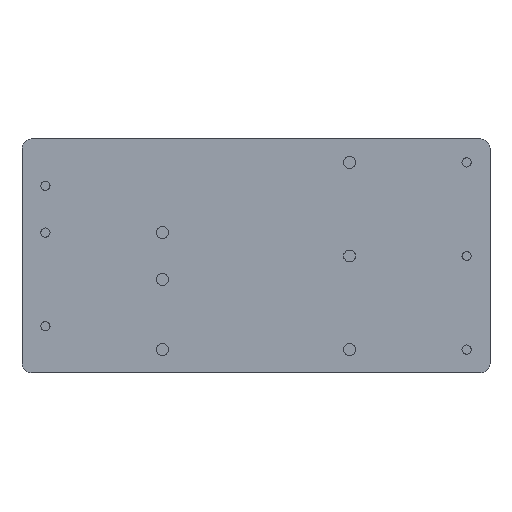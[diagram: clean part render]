
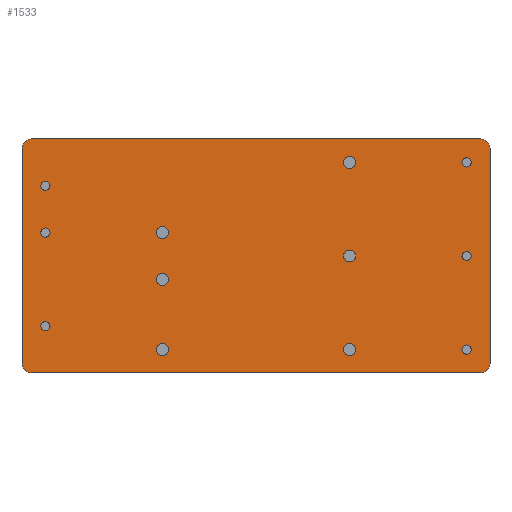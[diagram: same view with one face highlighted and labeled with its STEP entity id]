
A CAD part, front view. The second image highlights one B-rep face of the part: STEP entity #1533.
In plain terms, the highlighted planar face has unit normal (0, -1, 0).
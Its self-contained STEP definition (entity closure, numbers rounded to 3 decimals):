
#86=CIRCLE('',#1602,0.65);
#87=CIRCLE('',#1603,0.65);
#88=CIRCLE('',#1604,0.65);
#89=CIRCLE('',#1605,0.65);
#90=CIRCLE('',#1606,0.65);
#91=CIRCLE('',#1607,0.65);
#92=CIRCLE('',#1608,0.5);
#93=CIRCLE('',#1609,0.5);
#94=CIRCLE('',#1610,0.5);
#95=CIRCLE('',#1611,0.5);
#96=CIRCLE('',#1612,0.5);
#97=CIRCLE('',#1613,0.5);
#98=CIRCLE('',#1614,1.);
#99=CIRCLE('',#1615,1.);
#100=CIRCLE('',#1616,1.);
#101=CIRCLE('',#1617,1.);
#378=ORIENTED_EDGE('',*,*,#570,.F.);
#379=ORIENTED_EDGE('',*,*,#571,.F.);
#380=ORIENTED_EDGE('',*,*,#572,.F.);
#381=ORIENTED_EDGE('',*,*,#573,.F.);
#382=ORIENTED_EDGE('',*,*,#574,.F.);
#383=ORIENTED_EDGE('',*,*,#575,.F.);
#384=ORIENTED_EDGE('',*,*,#576,.F.);
#385=ORIENTED_EDGE('',*,*,#577,.F.);
#386=ORIENTED_EDGE('',*,*,#578,.F.);
#387=ORIENTED_EDGE('',*,*,#579,.F.);
#388=ORIENTED_EDGE('',*,*,#580,.F.);
#389=ORIENTED_EDGE('',*,*,#581,.F.);
#390=ORIENTED_EDGE('',*,*,#582,.F.);
#391=ORIENTED_EDGE('',*,*,#583,.T.);
#392=ORIENTED_EDGE('',*,*,#584,.F.);
#393=ORIENTED_EDGE('',*,*,#585,.T.);
#394=ORIENTED_EDGE('',*,*,#586,.F.);
#395=ORIENTED_EDGE('',*,*,#587,.T.);
#396=ORIENTED_EDGE('',*,*,#588,.F.);
#397=ORIENTED_EDGE('',*,*,#589,.T.);
#570=EDGE_CURVE('',#678,#678,#86,.T.);
#571=EDGE_CURVE('',#679,#679,#87,.T.);
#572=EDGE_CURVE('',#680,#680,#88,.T.);
#573=EDGE_CURVE('',#681,#681,#89,.T.);
#574=EDGE_CURVE('',#682,#682,#90,.T.);
#575=EDGE_CURVE('',#683,#683,#91,.T.);
#576=EDGE_CURVE('',#684,#684,#92,.T.);
#577=EDGE_CURVE('',#685,#685,#93,.T.);
#578=EDGE_CURVE('',#686,#686,#94,.T.);
#579=EDGE_CURVE('',#687,#687,#95,.T.);
#580=EDGE_CURVE('',#688,#688,#96,.T.);
#581=EDGE_CURVE('',#689,#689,#97,.T.);
#582=EDGE_CURVE('',#690,#691,#98,.T.);
#583=EDGE_CURVE('',#690,#692,#734,.T.);
#584=EDGE_CURVE('',#693,#692,#99,.T.);
#585=EDGE_CURVE('',#693,#694,#735,.T.);
#586=EDGE_CURVE('',#695,#694,#100,.T.);
#587=EDGE_CURVE('',#695,#696,#736,.T.);
#588=EDGE_CURVE('',#697,#696,#101,.T.);
#589=EDGE_CURVE('',#697,#691,#737,.T.);
#678=VERTEX_POINT('',#3619);
#679=VERTEX_POINT('',#3621);
#680=VERTEX_POINT('',#3623);
#681=VERTEX_POINT('',#3625);
#682=VERTEX_POINT('',#3627);
#683=VERTEX_POINT('',#3629);
#684=VERTEX_POINT('',#3631);
#685=VERTEX_POINT('',#3633);
#686=VERTEX_POINT('',#3635);
#687=VERTEX_POINT('',#3637);
#688=VERTEX_POINT('',#3639);
#689=VERTEX_POINT('',#3641);
#690=VERTEX_POINT('',#3643);
#691=VERTEX_POINT('',#3644);
#692=VERTEX_POINT('',#3646);
#693=VERTEX_POINT('',#3648);
#694=VERTEX_POINT('',#3650);
#695=VERTEX_POINT('',#3652);
#696=VERTEX_POINT('',#3654);
#697=VERTEX_POINT('',#3656);
#734=LINE('',#3645,#770);
#735=LINE('',#3649,#771);
#736=LINE('',#3653,#772);
#737=LINE('',#3657,#773);
#770=VECTOR('',#1776,1000.);
#771=VECTOR('',#1779,1000.);
#772=VECTOR('',#1782,1000.);
#773=VECTOR('',#1785,1000.);
#821=EDGE_LOOP('',(#378));
#822=EDGE_LOOP('',(#379));
#823=EDGE_LOOP('',(#380));
#824=EDGE_LOOP('',(#381));
#825=EDGE_LOOP('',(#382));
#826=EDGE_LOOP('',(#383));
#827=EDGE_LOOP('',(#384));
#828=EDGE_LOOP('',(#385));
#829=EDGE_LOOP('',(#386));
#830=EDGE_LOOP('',(#387));
#831=EDGE_LOOP('',(#388));
#832=EDGE_LOOP('',(#389));
#833=EDGE_LOOP('',(#390,#391,#392,#393,#394,#395,#396,#397));
#917=FACE_BOUND('',#821,.T.);
#918=FACE_BOUND('',#822,.T.);
#919=FACE_BOUND('',#823,.T.);
#920=FACE_BOUND('',#824,.T.);
#921=FACE_BOUND('',#825,.T.);
#922=FACE_BOUND('',#826,.T.);
#923=FACE_BOUND('',#827,.T.);
#924=FACE_BOUND('',#828,.T.);
#925=FACE_BOUND('',#829,.T.);
#926=FACE_BOUND('',#830,.T.);
#927=FACE_BOUND('',#831,.T.);
#928=FACE_BOUND('',#832,.T.);
#929=FACE_BOUND('',#833,.T.);
#980=PLANE('',#1601);
#1533=ADVANCED_FACE('',(#917,#918,#919,#920,#921,#922,#923,#924,#925,#926,
#927,#928,#929),#980,.T.);
#1601=AXIS2_PLACEMENT_3D('',#3617,#1748,#1749);
#1602=AXIS2_PLACEMENT_3D('',#3618,#1750,#1751);
#1603=AXIS2_PLACEMENT_3D('',#3620,#1752,#1753);
#1604=AXIS2_PLACEMENT_3D('',#3622,#1754,#1755);
#1605=AXIS2_PLACEMENT_3D('',#3624,#1756,#1757);
#1606=AXIS2_PLACEMENT_3D('',#3626,#1758,#1759);
#1607=AXIS2_PLACEMENT_3D('',#3628,#1760,#1761);
#1608=AXIS2_PLACEMENT_3D('',#3630,#1762,#1763);
#1609=AXIS2_PLACEMENT_3D('',#3632,#1764,#1765);
#1610=AXIS2_PLACEMENT_3D('',#3634,#1766,#1767);
#1611=AXIS2_PLACEMENT_3D('',#3636,#1768,#1769);
#1612=AXIS2_PLACEMENT_3D('',#3638,#1770,#1771);
#1613=AXIS2_PLACEMENT_3D('',#3640,#1772,#1773);
#1614=AXIS2_PLACEMENT_3D('',#3642,#1774,#1775);
#1615=AXIS2_PLACEMENT_3D('',#3647,#1777,#1778);
#1616=AXIS2_PLACEMENT_3D('',#3651,#1780,#1781);
#1617=AXIS2_PLACEMENT_3D('',#3655,#1783,#1784);
#1748=DIRECTION('',(0.,-1.,0.));
#1749=DIRECTION('',(0.,0.,-1.));
#1750=DIRECTION('',(0.,-1.,0.));
#1751=DIRECTION('',(1.,0.,0.));
#1752=DIRECTION('',(0.,-1.,0.));
#1753=DIRECTION('',(1.,0.,0.));
#1754=DIRECTION('',(0.,-1.,0.));
#1755=DIRECTION('',(1.,0.,0.));
#1756=DIRECTION('',(0.,-1.,0.));
#1757=DIRECTION('',(1.,0.,0.));
#1758=DIRECTION('',(0.,-1.,0.));
#1759=DIRECTION('',(1.,0.,0.));
#1760=DIRECTION('',(0.,-1.,0.));
#1761=DIRECTION('',(1.,0.,0.));
#1762=DIRECTION('',(0.,-1.,0.));
#1763=DIRECTION('',(0.,0.,-1.));
#1764=DIRECTION('',(0.,-1.,0.));
#1765=DIRECTION('',(0.,0.,-1.));
#1766=DIRECTION('',(0.,-1.,0.));
#1767=DIRECTION('',(0.,0.,-1.));
#1768=DIRECTION('',(0.,-1.,0.));
#1769=DIRECTION('',(0.,0.,-1.));
#1770=DIRECTION('',(0.,-1.,0.));
#1771=DIRECTION('',(0.,0.,-1.));
#1772=DIRECTION('',(0.,-1.,0.));
#1773=DIRECTION('',(0.,0.,-1.));
#1774=DIRECTION('',(0.,1.,0.));
#1775=DIRECTION('',(0.707,0.,-0.707));
#1776=DIRECTION('',(0.,0.,1.));
#1777=DIRECTION('',(0.,1.,0.));
#1778=DIRECTION('',(0.707,0.,0.707));
#1779=DIRECTION('',(-1.,0.,0.));
#1780=DIRECTION('',(0.,1.,0.));
#1781=DIRECTION('',(-0.707,0.,0.707));
#1782=DIRECTION('',(0.,0.,-1.));
#1783=DIRECTION('',(0.,1.,0.));
#1784=DIRECTION('',(-0.707,0.,-0.707));
#1785=DIRECTION('',(1.,0.,0.));
#3617=CARTESIAN_POINT('',(0.,-0.6,0.));
#3618=CARTESIAN_POINT('',(10.16,-0.6,-10.16));
#3619=CARTESIAN_POINT('',(10.81,-0.6,-10.16));
#3620=CARTESIAN_POINT('',(-10.16,-0.6,-10.16));
#3621=CARTESIAN_POINT('',(-9.51,-0.6,-10.16));
#3622=CARTESIAN_POINT('',(-10.16,-0.6,-2.54));
#3623=CARTESIAN_POINT('',(-9.51,-0.6,-2.54));
#3624=CARTESIAN_POINT('',(-10.16,-0.6,2.54));
#3625=CARTESIAN_POINT('',(-9.51,-0.6,2.54));
#3626=CARTESIAN_POINT('',(10.16,-0.6,0.));
#3627=CARTESIAN_POINT('',(10.81,-0.6,0.));
#3628=CARTESIAN_POINT('',(10.16,-0.6,10.16));
#3629=CARTESIAN_POINT('',(10.81,-0.6,10.16));
#3630=CARTESIAN_POINT('',(-22.86,-0.6,2.54));
#3631=CARTESIAN_POINT('',(-22.86,-0.6,2.04));
#3632=CARTESIAN_POINT('',(22.86,-0.6,-10.16));
#3633=CARTESIAN_POINT('',(22.86,-0.6,-10.66));
#3634=CARTESIAN_POINT('',(22.86,-0.6,10.16));
#3635=CARTESIAN_POINT('',(22.86,-0.6,9.66));
#3636=CARTESIAN_POINT('',(-22.86,-0.6,-7.62));
#3637=CARTESIAN_POINT('',(-22.86,-0.6,-8.12));
#3638=CARTESIAN_POINT('',(-22.86,-0.6,7.62));
#3639=CARTESIAN_POINT('',(-22.86,-0.6,7.12));
#3640=CARTESIAN_POINT('',(22.86,-0.6,0.));
#3641=CARTESIAN_POINT('',(22.86,-0.6,-0.5));
#3642=CARTESIAN_POINT('',(24.4,-0.6,-11.7));
#3643=CARTESIAN_POINT('',(25.4,-0.6,-11.7));
#3644=CARTESIAN_POINT('',(24.4,-0.6,-12.7));
#3645=CARTESIAN_POINT('',(25.4,-0.6,12.7));
#3646=CARTESIAN_POINT('',(25.4,-0.6,11.7));
#3647=CARTESIAN_POINT('',(24.4,-0.6,11.7));
#3648=CARTESIAN_POINT('',(24.4,-0.6,12.7));
#3649=CARTESIAN_POINT('',(-25.4,-0.6,12.7));
#3650=CARTESIAN_POINT('',(-24.4,-0.6,12.7));
#3651=CARTESIAN_POINT('',(-24.4,-0.6,11.7));
#3652=CARTESIAN_POINT('',(-25.4,-0.6,11.7));
#3653=CARTESIAN_POINT('',(-25.4,-0.6,-12.7));
#3654=CARTESIAN_POINT('',(-25.4,-0.6,-11.7));
#3655=CARTESIAN_POINT('',(-24.4,-0.6,-11.7));
#3656=CARTESIAN_POINT('',(-24.4,-0.6,-12.7));
#3657=CARTESIAN_POINT('',(25.4,-0.6,-12.7));
